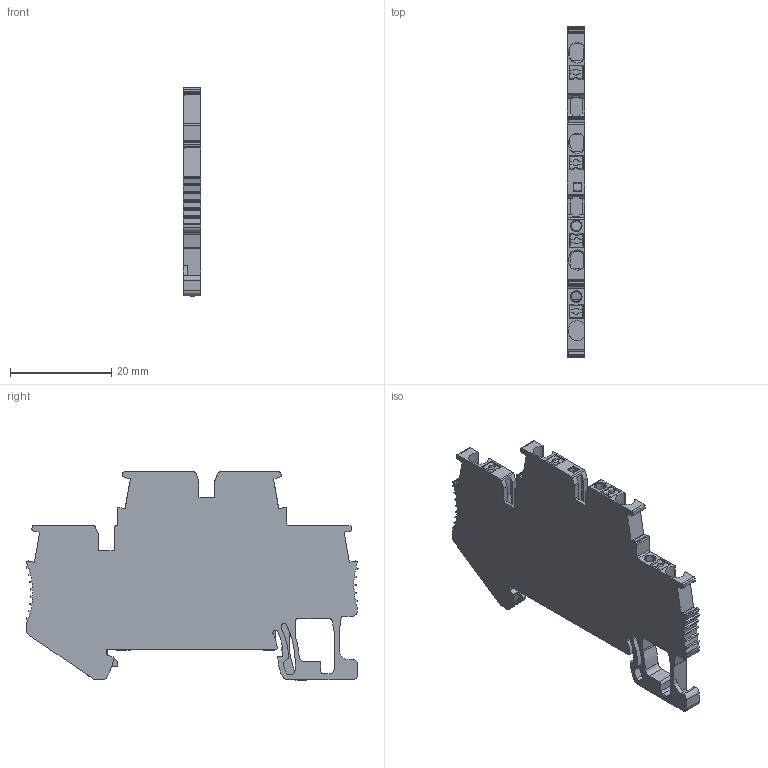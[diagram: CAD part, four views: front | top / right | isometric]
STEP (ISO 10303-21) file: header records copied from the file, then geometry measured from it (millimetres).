
FILE_DESCRIPTION (( 'STEP AP214' ), '1' );
FILE_NAME ('VPRTT-1.5-PE.STEP', '2026-03-30T14:25:49', ( '' ), ( '' ), 'SwSTEP 2.0', 'SolidWorks 2022', '' );
FILE_SCHEMA (( 'AUTOMOTIVE_DESIGN' ));
Length unit declared in the file: millimetre
Products named in the file (1): VPRTT-1.5-PE
Bounding box: 3.5 x 65.62 x 41.12 mm (x, y, z)
Volume: 6194.8 mm3; surface area: 5530.8 mm2
Topology: 1 solids, 1 shells, 626 faces, 1791 edges, 1170 vertices
Faces by surface type: plane 408, cylinder 201, cone 13, bspline 4
Entity records: 22032 total; most frequent: CARTESIAN_POINT 3947, ORIENTED_EDGE 3582, DIRECTION 3363, EDGE_CURVE 1791, VECTOR 1279, LINE 1279, VERTEX_POINT 1170, AXIS2_PLACEMENT_3D 1042
